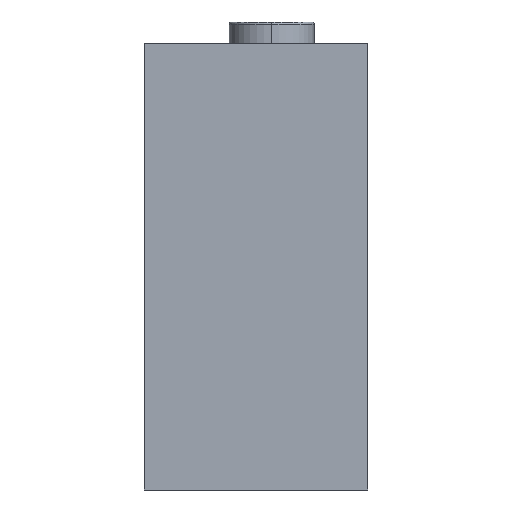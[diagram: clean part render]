
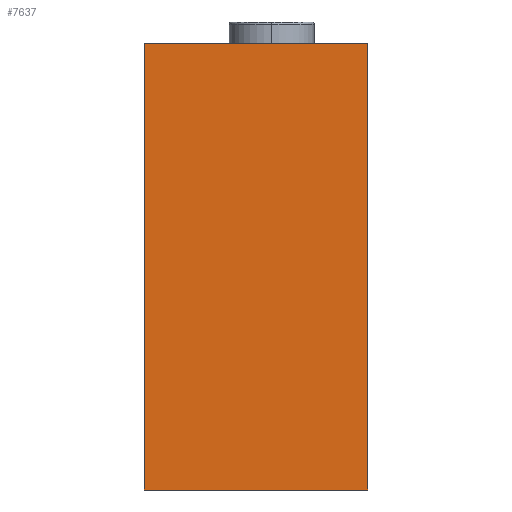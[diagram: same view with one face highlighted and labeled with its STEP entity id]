
A CAD part, left-side view. The second image highlights one B-rep face of the part: STEP entity #7637.
In plain terms, the highlighted planar face has unit normal (-1, 0, 0).
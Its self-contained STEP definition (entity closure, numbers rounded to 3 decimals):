
#72 = LINE ( 'NONE', #10383, #82 ) ;
#75 = AXIS2_PLACEMENT_3D ( 'NONE', #1647, #1512, #1439 ) ;
#82 = VECTOR ( 'NONE', #10018, 1000. ) ;
#297 = VECTOR ( 'NONE', #10446, 1000. ) ;
#1040 = LINE ( 'NONE', #9604, #297 ) ;
#1439 = DIRECTION ( 'NONE',  ( 0., 0., 1. ) ) ;
#1512 = DIRECTION ( 'NONE',  ( -1., 0., 0. ) ) ;
#1647 = CARTESIAN_POINT ( 'NONE',  ( 0., 25., -50. ) ) ;
#2357 = CARTESIAN_POINT ( 'NONE',  ( 0., 25., 50. ) ) ;
#3340 = PLANE ( 'NONE',  #75 ) ;
#3544 = CARTESIAN_POINT ( 'NONE',  ( 0., -25., 50. ) ) ;
#4051 = FACE_OUTER_BOUND ( 'NONE', #4954, .T. ) ;
#4446 = ORIENTED_EDGE ( 'NONE', *, *, #6771, .F. ) ;
#4954 = EDGE_LOOP ( 'NONE', ( #5606, #4446, #6199, #8642 ) ) ;
#5519 = EDGE_CURVE ( 'NONE', #6096, #7640, #72, .T. ) ;
#5606 = ORIENTED_EDGE ( 'NONE', *, *, #5519, .F. ) ;
#5713 = DIRECTION ( 'NONE',  ( 0., 1., 0. ) ) ;
#5979 = CARTESIAN_POINT ( 'NONE',  ( 0., -25., 50. ) ) ;
#6025 = CARTESIAN_POINT ( 'NONE',  ( 0., -25., -50. ) ) ;
#6057 = EDGE_CURVE ( 'NONE', #6720, #11912, #1040, .T. ) ;
#6096 = VERTEX_POINT ( 'NONE', #9956 ) ;
#6199 = ORIENTED_EDGE ( 'NONE', *, *, #6057, .T. ) ;
#6277 = DIRECTION ( 'NONE',  ( 0., 1., 0. ) ) ;
#6720 = VERTEX_POINT ( 'NONE', #7986 ) ;
#6771 = EDGE_CURVE ( 'NONE', #6720, #6096, #10920, .T. ) ;
#6775 = EDGE_CURVE ( 'NONE', #11912, #7640, #11237, .T. ) ;
#7637 = ADVANCED_FACE ( 'NONE', ( #4051 ), #3340, .T. ) ;
#7640 = VERTEX_POINT ( 'NONE', #2357 ) ;
#7986 = CARTESIAN_POINT ( 'NONE',  ( 0., -25., -50. ) ) ;
#8642 = ORIENTED_EDGE ( 'NONE', *, *, #6775, .T. ) ;
#9604 = CARTESIAN_POINT ( 'NONE',  ( 0., -25., -50.707 ) ) ;
#9956 = CARTESIAN_POINT ( 'NONE',  ( 0., 25., -50. ) ) ;
#10018 = DIRECTION ( 'NONE',  ( 0., 0., 1. ) ) ;
#10383 = CARTESIAN_POINT ( 'NONE',  ( 0., 25., -50.707 ) ) ;
#10386 = VECTOR ( 'NONE', #5713, 1000. ) ;
#10446 = DIRECTION ( 'NONE',  ( 0., 0., 1. ) ) ;
#10528 = VECTOR ( 'NONE', #6277, 1000. ) ;
#10920 = LINE ( 'NONE', #6025, #10528 ) ;
#11237 = LINE ( 'NONE', #5979, #10386 ) ;
#11912 = VERTEX_POINT ( 'NONE', #3544 ) ;
